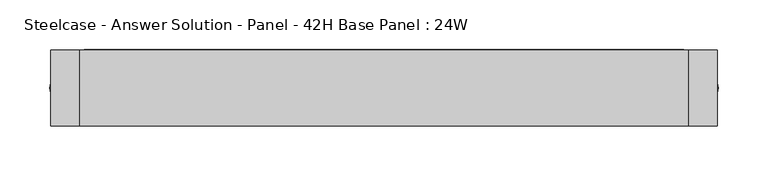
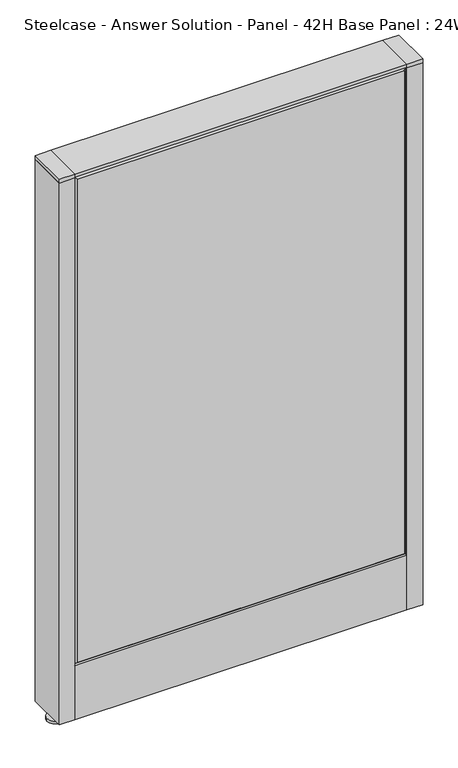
"""IFC4 building model written with IfcOpenShell, lengths in millimetres: furniture geometry, Steelcase - Answer Solution - Panel - 42H Base Panel : 24W."""

import ifcopenshell
import ifcopenshell.guid

model = None  # the IFC model being written
_history = None  # IfcOwnerHistory: only IFC2X3 demands one
_inside = {}  # id of a spatial element -> (the spatial element, [elements in it])
_under = {}  # id of a project, library or spatial element -> (it, [spatial elements below it])
_declared = {}  # id of a project -> (the project, [libraries it declares])
_typed = {}  # id of a type object -> (the type object, [elements of that type])
_made_of = {}  # id of a material, layer set ... -> (it, [elements and type objects made of it])


def new_model(schema):
    """Start an empty IFC model of exactly this schema.

    Asked for "IFC4X3", IfcOpenShell would pick the latest addendum, in which some entities
    have other attributes; the version numbers below select the first issue.
    IFC2X3 requires an IfcOwnerHistory on every rooted entity: one is made here for all.
    """
    global model, _history
    if schema == "IFC4X3":
        model = ifcopenshell.file(schema_version=(4, 3, 0, 0))
    else:
        model = ifcopenshell.file(schema=schema)
    _inside.clear()
    _under.clear()
    _declared.clear()
    _typed.clear()
    _made_of.clear()
    _history = None
    if model.schema == "IFC2X3":
        org = make("IfcOrganization", Name="unknown")
        user = make(
            "IfcPersonAndOrganization",
            ThePerson=make("IfcPerson", FamilyName="unknown"),
            TheOrganization=org,
        )
        app = make(
            "IfcApplication",
            ApplicationDeveloper=org,
            Version="unknown",
            ApplicationFullName="unknown",
            ApplicationIdentifier="unknown",
        )
        _history = make(
            "IfcOwnerHistory",
            OwningUser=user,
            OwningApplication=app,
            ChangeAction="ADDED",
            CreationDate=0,
        )
    return model


def make(cls, **values):
    """One entity of the class cls with the attributes given. An attribute that is None is left unset."""
    return model.create_entity(
        cls, **{name: value for name, value in values.items() if value is not None}
    )


def rooted(cls, **values):
    """An entity with a GlobalId (a new one), such as an element, a storey or a relation."""
    return make(cls, GlobalId=ifcopenshell.guid.new(), OwnerHistory=_history, **values)


def si_unit(unit_type, name, prefix=None):
    """IfcSIUnit, for example si_unit("LENGTHUNIT", "METRE", prefix="MILLI")."""
    return make("IfcSIUnit", UnitType=unit_type, Prefix=prefix, Name=name)


def assignment(units):
    """IfcUnitAssignment: the units of a project."""
    return None if units is None else make("IfcUnitAssignment", Units=units)


def point(xyz):
    """IfcCartesianPoint."""
    return None if xyz is None else make("IfcCartesianPoint", Coordinates=xyz)


def direction(xyz):
    """IfcDirection."""
    return None if xyz is None else make("IfcDirection", DirectionRatios=xyz)


def frame(location, z_axis=None, x_axis=None):
    """IfcAxis2Placement3D, a coordinate frame: its origin and axes. An axis left out is left unset."""
    return make(
        "IfcAxis2Placement3D",
        Location=point(location),
        Axis=direction(z_axis),
        RefDirection=direction(x_axis),
    )


def frame_2d(location, x_axis=None):
    """IfcAxis2Placement2D, a coordinate frame in the plane: its origin and x axis."""
    return make(
        "IfcAxis2Placement2D", Location=point(location), RefDirection=direction(x_axis)
    )


def origin():
    """The frame at (0, 0, 0) with its axes left unset."""
    return frame((0.0, 0.0, 0.0))


def place(relative_to, where):
    """IfcLocalPlacement: puts the frame where relative to a parent placement (None: the world)."""
    return make(
        "IfcLocalPlacement", PlacementRelTo=relative_to, RelativePlacement=where
    )


def context(
    kind, dimensions, precision=None, world=None, true_north=None, identifier=None
):
    """IfcGeometricRepresentationContext, for example the 3D "Model" context."""
    return make(
        "IfcGeometricRepresentationContext",
        ContextIdentifier=identifier,
        ContextType=kind,
        CoordinateSpaceDimension=dimensions,
        Precision=precision,
        WorldCoordinateSystem=world,
        TrueNorth=true_north,
    )


def project(units=None, contexts=None):
    """IfcProject with its units and contexts."""
    return rooted(
        "IfcProject",
        Name="project",
        RepresentationContexts=contexts,
        UnitsInContext=assignment(units),
    )


def spatial(cls, under=None, at=None, **own):
    """A site, building, storey or space (cls), placed at a placement, below another one or the project."""
    s = rooted(cls, ObjectPlacement=at, **own)
    if under is not None:
        _under.setdefault(under.id(), (under, []))[1].append(s)
    return s


def polyline(points):
    """IfcPolyline through the points."""
    return make("IfcPolyline", Points=[point(p) for p in points])


def circle_curve(where, radius):
    """IfcCircle in the frame where."""
    return make("IfcCircle", Position=where, Radius=radius)


def trimmed(basis, trim1, trim2, sense, master):
    """IfcTrimmedCurve: the piece of a basis curve between two trims."""
    return make(
        "IfcTrimmedCurve",
        BasisCurve=basis,
        Trim1=trim1,
        Trim2=trim2,
        SenseAgreement=sense,
        MasterRepresentation=master,
    )


def segment(curve, same_sense, transition):
    """IfcCompositeCurveSegment."""
    return make(
        "IfcCompositeCurveSegment",
        Transition=transition,
        SameSense=same_sense,
        ParentCurve=curve,
    )


def composite_curve(segments, self_intersect=None):
    """IfcCompositeCurve: segments joined end to end."""
    return make("IfcCompositeCurve", Segments=segments, SelfIntersect=self_intersect)


def outline(outer, holes=None, kind="AREA"):
    """IfcArbitraryClosedProfileDef: a profile drawn as a closed curve; with holes, ...WithVoids."""
    if holes is None:
        return make("IfcArbitraryClosedProfileDef", ProfileType=kind, OuterCurve=outer)
    return make(
        "IfcArbitraryProfileDefWithVoids",
        ProfileType=kind,
        OuterCurve=outer,
        InnerCurves=holes,
    )


def extrude(swept, where, along, depth):
    """IfcExtrudedAreaSolid: the profile swept, set in the frame where, extruded along a direction by depth."""
    return make(
        "IfcExtrudedAreaSolid",
        SweptArea=swept,
        Position=where,
        ExtrudedDirection=direction(along),
        Depth=depth,
    )


def faces_of(points, faces, orient=None, outer=None):
    """IfcFace entities. A face is a list of loops; a loop is a list of indices into points, from 0.

    orient and outer hold one flag for each loop. By default every Orientation is true, the
    first loop of a face is its IfcFaceOuterBound and the others are IfcFaceBound.
    """
    made = []
    for i, loops in enumerate(faces):
        bounds = []
        for j, loop in enumerate(loops):
            is_outer = j == 0 if outer is None else outer[i][j]
            bounds.append(
                make(
                    "IfcFaceOuterBound" if is_outer else "IfcFaceBound",
                    Bound=make("IfcPolyLoop", Polygon=[points[k] for k in loop]),
                    Orientation=True if orient is None else orient[i][j],
                )
            )
        made.append(make("IfcFace", Bounds=bounds))
    return made


def faceted_brep(points, faces, orient=None, outer=None, voids=None):
    """IfcFacetedBrep: a solid bounded by flat faces; with voids (closed shells), ...WithVoids."""
    shared = [point(p) for p in points]
    hull = make("IfcClosedShell", CfsFaces=faces_of(shared, faces, orient, outer))
    if voids is None:
        return make("IfcFacetedBrep", Outer=hull)
    return make(
        "IfcFacetedBrepWithVoids",
        Outer=hull,
        Voids=[
            make(cls, CfsFaces=faces_of(shared, fs, o, b)) for cls, fs, o, b in voids
        ],
    )


def shape(context_of_items, identifier, shape_type, items):
    """IfcShapeRepresentation: the items that make up one representation, for example the "Body"."""
    return make(
        "IfcShapeRepresentation",
        ContextOfItems=context_of_items,
        RepresentationIdentifier=identifier,
        RepresentationType=shape_type,
        Items=items,
    )


def source(mapping_origin, context_of_items, identifier, shape_type, items):
    """IfcRepresentationMap: a shape defined once, which mapped items show again and again."""
    return make(
        "IfcRepresentationMap",
        MappingOrigin=mapping_origin,
        MappedRepresentation=shape(context_of_items, identifier, shape_type, items),
    )


def transform(
    local_origin,
    x_axis=None,
    y_axis=None,
    z_axis=None,
    scale=None,
    scale2=None,
    scale3=None,
    uniform=True,
):
    """IfcCartesianTransformationOperator3D, or its non-uniform kind. x_axis, y_axis, z_axis: its Axis1, 2, 3."""
    if uniform:
        return make(
            "IfcCartesianTransformationOperator3D",
            Axis1=direction(x_axis),
            Axis2=direction(y_axis),
            LocalOrigin=point(local_origin),
            Scale=scale,
            Axis3=direction(z_axis),
        )
    return make(
        "IfcCartesianTransformationOperator3DnonUniform",
        Axis1=direction(x_axis),
        Axis2=direction(y_axis),
        LocalOrigin=point(local_origin),
        Scale=scale,
        Axis3=direction(z_axis),
        Scale2=scale2,
        Scale3=scale3,
    )


def mapped(mapping_source, mapping_target):
    """IfcMappedItem: shows the shape of a source again, moved by a transform."""
    return make(
        "IfcMappedItem", MappingSource=mapping_source, MappingTarget=mapping_target
    )


def made_of(thing, what):
    """Note that an element or type object is made of a material, layer set ...; save() writes the relation."""
    if what is not None:
        _made_of.setdefault(what.id(), (what, []))[1].append(thing)
    return thing


def element(
    cls,
    number,
    at=None,
    inside=None,
    cuts=None,
    type_object=None,
    material=None,
    context=None,
    identifier="Body",
    shape_type=None,
    held_by="IfcProductDefinitionShape",
    body=None,
    shapes=None,
    **own,
):
    """One element of the class cls, such as IfcWall. Its Tag is "e" and its number.

    at: its placement. inside: the storey or other place that contains it. cuts: it is an
    opening in that element (IfcRelVoidsElement). A single representation is given by context,
    identifier, shape_type and body (its items); several are given by shapes. held_by: the class
    of the entity that holds the representations. save() writes the other relations.
    """
    e = rooted(cls, Tag="e%d" % number, ObjectPlacement=at, **own)
    if body is not None:
        shapes = [shape(context, identifier, shape_type, body)]
    if shapes is not None:
        e.Representation = make(held_by, Representations=shapes)
    if inside is not None:
        _inside.setdefault(inside.id(), (inside, []))[1].append(e)
    if cuts is not None:
        rooted(
            "IfcRelVoidsElement", RelatingBuildingElement=cuts, RelatedOpeningElement=e
        )
    if type_object is not None:
        _typed.setdefault(type_object.id(), (type_object, []))[1].append(e)
    return made_of(e, material)


def aggregate(whole, parts):
    """IfcRelAggregates: a whole, such as a stair, and the parts it consists of."""
    return rooted("IfcRelAggregates", RelatingObject=whole, RelatedObjects=parts)


def save(model, path):
    """Write the relations noted so far, then the file.

    IfcRelAggregates (storeys below a building ...), IfcRelContainedInSpatialStructure (elements
    in a storey), IfcRelDefinesByType, IfcRelAssociatesMaterial and IfcRelDeclares: one each for
    every whole, place, type object, material and project.
    """
    for whole, parts in _under.values():
        aggregate(whole, parts)
    for where, things in _inside.values():
        rooted(
            "IfcRelContainedInSpatialStructure",
            RelatedElements=things,
            RelatingStructure=where,
        )
    for kind, things in _typed.values():
        rooted("IfcRelDefinesByType", RelatedObjects=things, RelatingType=kind)
    for what, things in _made_of.values():
        rooted("IfcRelAssociatesMaterial", RelatedObjects=things, RelatingMaterial=what)
    for by, libraries in _declared.values():
        rooted("IfcRelDeclares", RelatingContext=by, RelatedDefinitions=libraries)
    model.write(path)


def steelcase_answer_solution_panel_42h_base_panel_24w_ba7f965c(model_context):
    return source(origin(), model_context, "Body", "SolidModel", [
        extrude(outline(composite_curve([segment(trimmed(circle_curve(frame_2d((319.024, -0.0039657)), 5.08), [point((324.104, -0.0039657))], [point((313.944, -0.0039657))], False, "CARTESIAN"), True, "CONTINUOUS"), segment(trimmed(circle_curve(frame_2d((319.024, -0.0039657)), 5.08), [point((313.944, -0.0039657))], [point((324.104, -0.0039657))], False, "CARTESIAN"), True, "CONTINUOUS")], self_intersect=False)), frame((0.0, 0.0, 5.0799671), z_axis=(0.0, 0.0, 1.0), x_axis=(1.0, 0.0, 0.0)), (0.0, 0.0, 1.0), 10.414),
        extrude(outline(composite_curve([segment(trimmed(circle_curve(frame_2d((319.024, -0.0039657)), 15.24), [point((334.264, -0.0039657))], [point((303.784, -0.0039657))], False, "CARTESIAN"), True, "CONTINUOUS"), segment(trimmed(circle_curve(frame_2d((319.024, -0.0039657)), 15.24), [point((303.784, -0.0039657))], [point((334.264, -0.0039657))], False, "CARTESIAN"), True, "CONTINUOUS")], self_intersect=False)), frame((0.0, 0.0, -3.29e-05), z_axis=(0.0, 0.0, 1.0), x_axis=(1.0, 0.0, 0.0)), (0.0, 0.0, 1.0), 5.08),
        extrude(outline(polyline([(333.375, -38.1039851), (304.8, -38.1039851), (304.8, 38.0960149), (333.375, 38.0960149), (333.375, -38.1039851)])), frame((0.0, 0.0, 1065.8348), z_axis=(0.0, 0.0, 1.0), x_axis=(1.0, 0.0, 0.0)), (0.0, 0.0, 1.0), 7.3151671),
        extrude(outline(polyline([(333.375, -38.1039851), (304.8, -38.1039851), (304.8, 38.0960149), (333.375, 38.0960149), (333.375, -38.1039851)])), frame((0.0, 0.0, 15.4939671), z_axis=(0.0, 0.0, 1.0), x_axis=(1.0, 0.0, 0.0)), (0.0, 0.0, 1.0), 1050.3408329),
        extrude(outline(composite_curve([segment(trimmed(circle_curve(frame_2d((-319.024, -0.0039657)), 5.08), [point((-324.104, -0.0039657))], [point((-313.944, -0.0039657))], False, "CARTESIAN"), True, "CONTINUOUS"), segment(trimmed(circle_curve(frame_2d((-319.024, -0.0039657)), 5.08), [point((-313.944, -0.0039657))], [point((-324.104, -0.0039657))], False, "CARTESIAN"), True, "CONTINUOUS")], self_intersect=False)), frame((0.0, 0.0, 5.0799671), z_axis=(0.0, 0.0, 1.0), x_axis=(1.0, 0.0, 0.0)), (0.0, 0.0, 1.0), 10.414),
        extrude(outline(composite_curve([segment(trimmed(circle_curve(frame_2d((-319.024, -0.0039657)), 15.24), [point((-334.264, -0.0039657))], [point((-303.784, -0.0039657))], False, "CARTESIAN"), True, "CONTINUOUS"), segment(trimmed(circle_curve(frame_2d((-319.024, -0.0039657)), 15.24), [point((-303.784, -0.0039657))], [point((-334.264, -0.0039657))], False, "CARTESIAN"), True, "CONTINUOUS")], self_intersect=False)), frame((0.0, 0.0, -3.29e-05), z_axis=(0.0, 0.0, 1.0), x_axis=(1.0, 0.0, 0.0)), (0.0, 0.0, 1.0), 5.08),
        extrude(outline(polyline([(-333.375, -38.1039851), (-333.375, 38.0960149), (-304.8, 38.0960149), (-304.8, -38.1039851), (-333.375, -38.1039851)])), frame((0.0, 0.0, 1065.8348), z_axis=(0.0, 0.0, 1.0), x_axis=(1.0, 0.0, 0.0)), (0.0, 0.0, 1.0), 7.3151671),
        extrude(outline(polyline([(-333.375, -38.1039851), (-333.375, 38.0960149), (-304.8, 38.0960149), (-304.8, -38.1039851), (-333.375, -38.1039851)])), frame((0.0, 0.0, 15.4939671), z_axis=(0.0, 0.0, 1.0), x_axis=(1.0, 0.0, 0.0)), (0.0, 0.0, 1.0), 1050.3408329),
        faceted_brep([(-299.974, -38.1635011, 1061.974), (-299.974, -38.1635011, 125.476), (299.974, -38.1635011, 125.476), (299.974, -38.1635011, 1061.974), (-304.8, -33.3375011, 1066.8), (304.8, -33.3375011, 1066.8), (304.8, -33.3375011, 120.65), (-304.8, -33.3375011, 120.65)], [[[0, 1, 2, 3]], [[4, 5, 6, 7]], [[4, 0, 3, 5]], [[5, 3, 2, 6]], [[6, 2, 1, 7]], [[7, 1, 0, 4]]]),
        faceted_brep([(299.974, 38.1635011, 1061.974), (299.974, 38.1635011, 125.476), (-299.974, 38.1635011, 125.476), (-299.974, 38.1635011, 1061.974), (304.8, 33.3375011, 1066.8), (-304.8, 33.3375011, 1066.8), (-304.8, 33.3375011, 120.65), (304.8, 33.3375011, 120.65)], [[[0, 1, 2, 3]], [[4, 5, 6, 7]], [[4, 0, 3, 5]], [[5, 3, 2, 6]], [[6, 2, 1, 7]], [[7, 1, 0, 4]]]),
        extrude(outline(polyline([(304.8, -38.1000194), (-304.8, -38.1000194), (-304.8, 38.1000194), (304.8, 38.1000194), (304.8, -38.1000194)])), frame((0.0, 0.0, 1066.8), z_axis=(0.0, 0.0, 1.0), x_axis=(1.0, 0.0, 0.0)), (0.0, 0.0, 1.0), 6.35),
        extrude(outline(polyline([(-25.4000011, 119.8575157), (-37.3075215, 119.8575157), (-37.3075215, 15.494), (-38.1000194, 15.494), (-38.1000194, 120.65), (-25.4000011, 120.65), (-25.4000011, 119.8575157)])), frame((-304.8, 0.0, 0.0), z_axis=(1.0, 0.0, 0.0), x_axis=(0.0, 1.0, 0.0)), (0.0, 0.0, 1.0), 609.6),
        extrude(outline(polyline([(25.4000011, 119.8575157), (25.4000011, 120.65), (38.1000194, 120.65), (38.1000194, 15.494), (37.3075215, 15.494), (37.3075215, 119.8575157), (25.4000011, 119.8575157)])), frame((-304.8, 0.0, 0.0), z_axis=(1.0, 0.0, 0.0), x_axis=(0.0, 1.0, 0.0)), (0.0, 0.0, 1.0), 609.6),
    ])


if __name__ == "__main__":
    model = new_model("IFC4")
    model_context = context("Model", 3, world=origin())
    ifc_project = project(units=[si_unit("LENGTHUNIT", "METRE", prefix="MILLI")], contexts=[model_context])
    site = spatial("IfcSite", under=ifc_project)
    building = spatial("IfcBuilding", under=site)
    placement = place(None, origin())
    steelcase_answer_solution_panel_42h_base_panel_24w_shape = steelcase_answer_solution_panel_42h_base_panel_24w_ba7f965c(model_context)
    element("IfcFurniture", 1, ObjectType="Steelcase - Answer Solution - Panel - 42H Base Panel : 24W", at=placement, inside=building, context=model_context, shape_type="MappedRepresentation", body=[
        mapped(steelcase_answer_solution_panel_42h_base_panel_24w_shape, transform((0.0, 0.0, 0.0), x_axis=(1.0, 0.0, 0.0), y_axis=(0.0, 1.0, 0.0), z_axis=(0.0, 0.0, 1.0))),
    ])
    save(model, "model.ifc")
